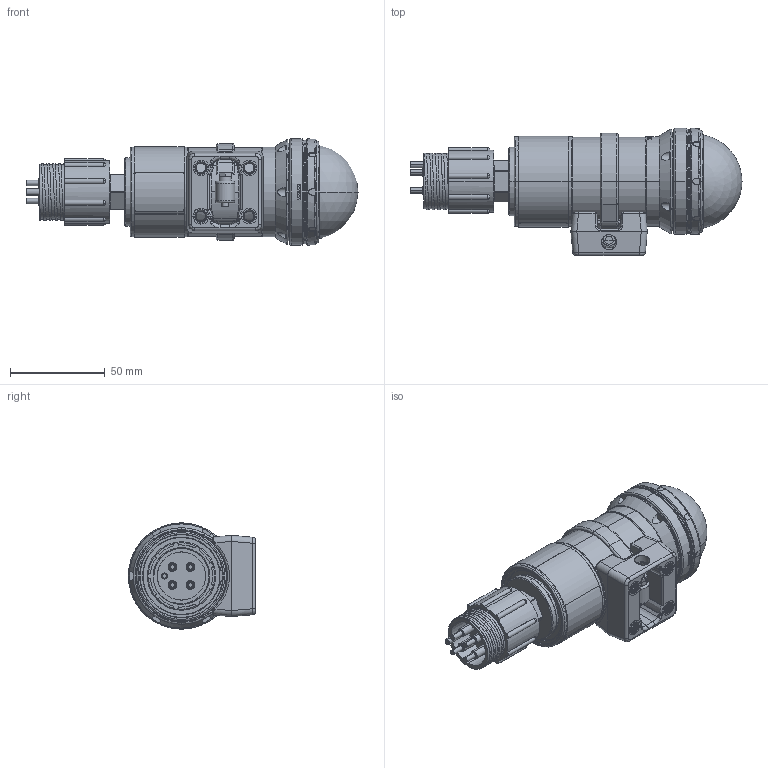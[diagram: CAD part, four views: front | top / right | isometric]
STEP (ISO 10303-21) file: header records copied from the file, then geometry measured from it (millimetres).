
FILE_DESCRIPTION (( 'STEP AP203' ), '1' );
FILE_NAME ('SWSC-X070-X-TI-X-SUMCBH4MS (STEP).STEP', '2024-06-17T21:29:43', ( '' ), ( '' ), 'SwSTEP 2.0', 'SolidWorks 2023', '' );
FILE_SCHEMA (( 'CONFIG_CONTROL_DESIGN' ));
Products named in the file (1): SWSC-X070-X-TI-X-SUMCBH4MS (STEP)
Bounding box: 175.22 x 67.13 x 56 mm (x, y, z)
Surface area: 53840.5 mm2 (no closed solid volume)
Topology: 0 solids, 35 shells, 740 faces, 2663 edges, 1917 vertices
Faces by surface type: cylinder 329, bspline 117, plane 115, torus 90, cone 63, sphere 26
Entity records: 52969 total; most frequent: CARTESIAN_POINT 33401, ORIENTED_EDGE 4129, DIRECTION 3431, EDGE_CURVE 2637, VERTEX_POINT 1917, AXIS2_PLACEMENT_3D 1398, B_SPLINE_CURVE_WITH_KNOTS 900, EDGE_LOOP 807
